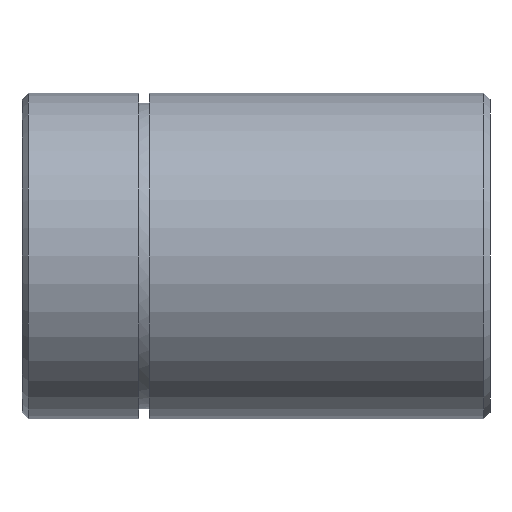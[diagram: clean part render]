
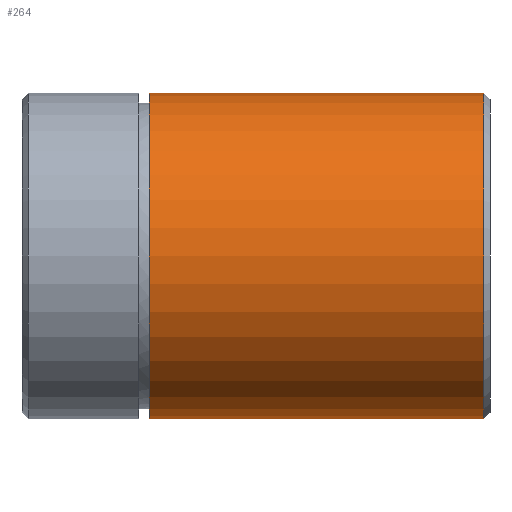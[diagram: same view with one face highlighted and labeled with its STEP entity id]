
A CAD part, left-side view. The second image highlights one B-rep face of the part: STEP entity #264.
In plain terms, the highlighted cylindrical face has radius 8 mm (diameter 16 mm), a partial arc.
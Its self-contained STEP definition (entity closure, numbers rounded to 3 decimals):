
#12 = CARTESIAN_POINT ( 'NONE',  ( 0., 16.75, 0. ) ) ;
#23 = ORIENTED_EDGE ( 'NONE', *, *, #43, .F. ) ;
#29 = ORIENTED_EDGE ( 'NONE', *, *, #492, .T. ) ;
#31 = CARTESIAN_POINT ( 'NONE',  ( 0., 23., -8. ) ) ;
#43 = EDGE_CURVE ( 'NONE', #366, #144, #442, .T. ) ;
#52 = EDGE_CURVE ( 'NONE', #366, #104, #677, .T. ) ;
#63 = DIRECTION ( 'NONE',  ( 0., 0., 1. ) ) ;
#75 = DIRECTION ( 'NONE',  ( 0., 0., -1. ) ) ;
#81 = AXIS2_PLACEMENT_3D ( 'NONE', #12, #697, #75 ) ;
#87 = LINE ( 'NONE', #31, #652 ) ;
#104 = VERTEX_POINT ( 'NONE', #581 ) ;
#144 = VERTEX_POINT ( 'NONE', #401 ) ;
#166 = AXIS2_PLACEMENT_3D ( 'NONE', #673, #388, #63 ) ;
#175 = DIRECTION ( 'NONE',  ( 0., -1., 0. ) ) ;
#221 = CARTESIAN_POINT ( 'NONE',  ( 0., 23., 0. ) ) ;
#244 = CIRCLE ( 'NONE', #166, 8. ) ;
#246 = VERTEX_POINT ( 'NONE', #322 ) ;
#264 = ADVANCED_FACE ( 'NONE', ( #526 ), #308, .T. ) ;
#287 = DIRECTION ( 'NONE',  ( 0., -1., 0. ) ) ;
#308 = CYLINDRICAL_SURFACE ( 'NONE', #438, 8. ) ;
#318 = EDGE_CURVE ( 'NONE', #246, #144, #244, .T. ) ;
#322 = CARTESIAN_POINT ( 'NONE',  ( 0., 0.3, -8. ) ) ;
#325 = ORIENTED_EDGE ( 'NONE', *, *, #318, .T. ) ;
#366 = VERTEX_POINT ( 'NONE', #622 ) ;
#388 = DIRECTION ( 'NONE',  ( 0., 1., 0. ) ) ;
#401 = CARTESIAN_POINT ( 'NONE',  ( 0., 0.3, 8. ) ) ;
#402 = VECTOR ( 'NONE', #175, 1000. ) ;
#438 = AXIS2_PLACEMENT_3D ( 'NONE', #221, #571, #506 ) ;
#442 = LINE ( 'NONE', #694, #402 ) ;
#490 = ORIENTED_EDGE ( 'NONE', *, *, #52, .T. ) ;
#492 = EDGE_CURVE ( 'NONE', #104, #246, #87, .T. ) ;
#506 = DIRECTION ( 'NONE',  ( 0., 0., -1. ) ) ;
#526 = FACE_OUTER_BOUND ( 'NONE', #621, .T. ) ;
#571 = DIRECTION ( 'NONE',  ( 0., -1., 0. ) ) ;
#581 = CARTESIAN_POINT ( 'NONE',  ( 0., 16.75, -8. ) ) ;
#621 = EDGE_LOOP ( 'NONE', ( #23, #490, #29, #325 ) ) ;
#622 = CARTESIAN_POINT ( 'NONE',  ( 0., 16.75, 8. ) ) ;
#652 = VECTOR ( 'NONE', #287, 1000. ) ;
#673 = CARTESIAN_POINT ( 'NONE',  ( 0., 0.3, 0. ) ) ;
#677 = CIRCLE ( 'NONE', #81, 8. ) ;
#694 = CARTESIAN_POINT ( 'NONE',  ( 0., 23., 8. ) ) ;
#697 = DIRECTION ( 'NONE',  ( 0., -1., 0. ) ) ;
